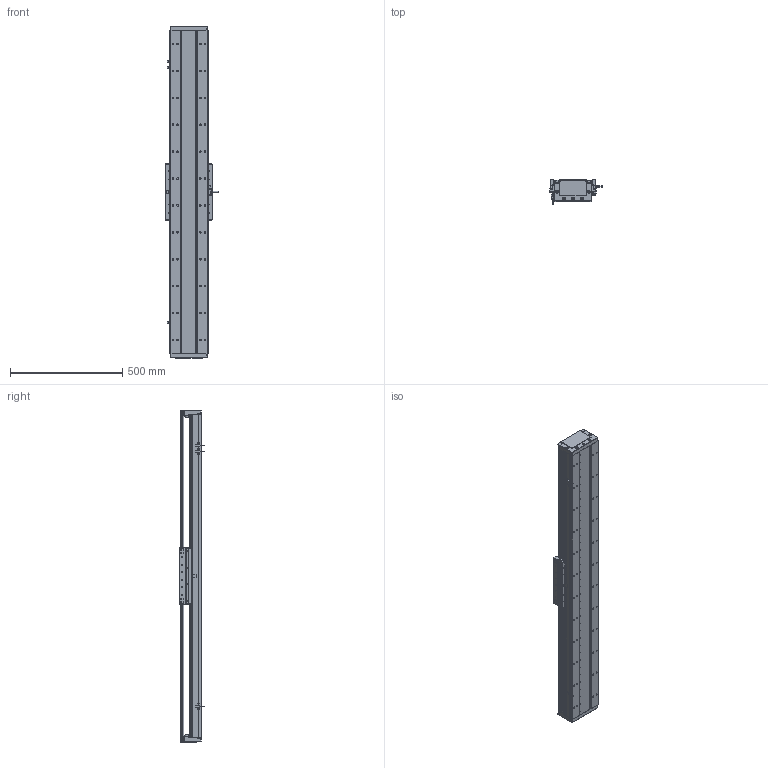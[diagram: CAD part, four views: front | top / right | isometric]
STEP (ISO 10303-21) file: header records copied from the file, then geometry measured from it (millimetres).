
FILE_DESCRIPTION (( 'STEP AP203' ), '1' );
FILE_NAME ('DA-C165-C3-T1140-C010-0.2 直线电机.STEP', '2023-06-13T08:43:31', ( '微软用户' ), ( '微软中国' ), 'SwSTEP 2.0', 'SolidWorks 2019', '' );
FILE_SCHEMA (( 'CONFIG_CONTROL_DESIGN' ));
Length unit declared in the file: millimetre
Products named in the file (15): 复件 DA165-DG-H-N-00 端盖^DA-C165-C3-T-C010-0.2-N 直线电机; DA-C165-C3-T1140-C010-0.2 眻盄萇儂; 葩璃 CKM01-W075-TRL^DA-C165-C3-T-C010-0.2-N 眻盄萇儂; 珨极趙賑雄怢啣C3-wf; 葩璃 DA95-GT-T-00^IU-CU165-L 菁釱絳寢_T; 复件 DA95-HXJ-00 缓冲橡胶^DA-C165-C3-T-C010-0.2-N 直线电机; IU-CU165-L 菁釱絳寢; 复件 DA165-T-002-00 盖板^DA-C165-C3-T-C010-0.2-N 直线电机_0840-002-00; 复件 DMA-010-0.2 读数头^DA-C165-C3-T-C010-0.2-N 直线电机; 复件 CU165 底座^IU-CU165-L 底座导轨_L1440; 葩璃 CKM03-W075-C1C2-TP-3.0^DA-C165-C3-T-C010-0.2-N 眻盄萇儂; 复件 XD-U-02L 磁栅尺^DA-C165-C3-T-C010-0.2-N 直线电机_T; 复件 六角薄螺母 M3^DA-C165-C3-T-C010-0.2-N 直线电机_GB_FASTENER_NUT_STNAB M3-C; 葩璃 PM-T45^DA-C165-C3-T-C010-0.2-N 眻盄萇儂; 复件 DA165-GYP-00 光电感应片^DA-C165-C3-T-C010-0.2-N 直线电机
Assembly tree (30 placements, depth 3):
  DA-C165-C3-T1140-C010-0.2 眻盄萇儂
    IU-CU165-L 菁釱絳寢
      复件 CU165 底座^IU-CU165-L 底座导轨_L1440
      葩璃 DA95-GT-T-00^IU-CU165-L 菁釱絳寢_T  x4
    复件 DA165-DG-H-N-00 端盖^DA-C165-C3-T-C010-0.2-N 直线电机  x2
    复件 DA95-HXJ-00 缓冲橡胶^DA-C165-C3-T-C010-0.2-N 直线电机  x4
    复件 DA165-T-002-00 盖板^DA-C165-C3-T-C010-0.2-N 直线电机_0840-002-00
    复件 XD-U-02L 磁栅尺^DA-C165-C3-T-C010-0.2-N 直线电机_T
    葩璃 PM-T45^DA-C165-C3-T-C010-0.2-N 眻盄萇儂  x3
    葩璃 CKM01-W075-TRL^DA-C165-C3-T-C010-0.2-N 眻盄萇儂
    复件 DA165-GYP-00 光电感应片^DA-C165-C3-T-C010-0.2-N 直线电机
    复件 DMA-010-0.2 读数头^DA-C165-C3-T-C010-0.2-N 直线电机
    葩璃 CKM03-W075-C1C2-TP-3.0^DA-C165-C3-T-C010-0.2-N 眻盄萇儂
    复件 六角薄螺母 M3^DA-C165-C3-T-C010-0.2-N 直线电机_GB_FASTENER_NUT_STNAB M3-C  x8
    珨极趙賑雄怢啣C3-wf
Bounding box: 233 x 111.45 x 1480 mm (x, y, z)
Volume: 10608427.2 mm3; surface area: 2910954.7 mm2
Topology: 68 solids, 118 shells, 3751 faces, 10212 edges, 6356 vertices
Faces by surface type: cylinder 1954, plane 1187, cone 552, torus 54, sphere 4
Entity records: 114691 total; most frequent: CARTESIAN_POINT 28256, DIRECTION 17842, ORIENTED_EDGE 17478, EDGE_CURVE 8739, AXIS2_PLACEMENT_3D 6778, VERTEX_POINT 5644, LINE 4286, VECTOR 4286
